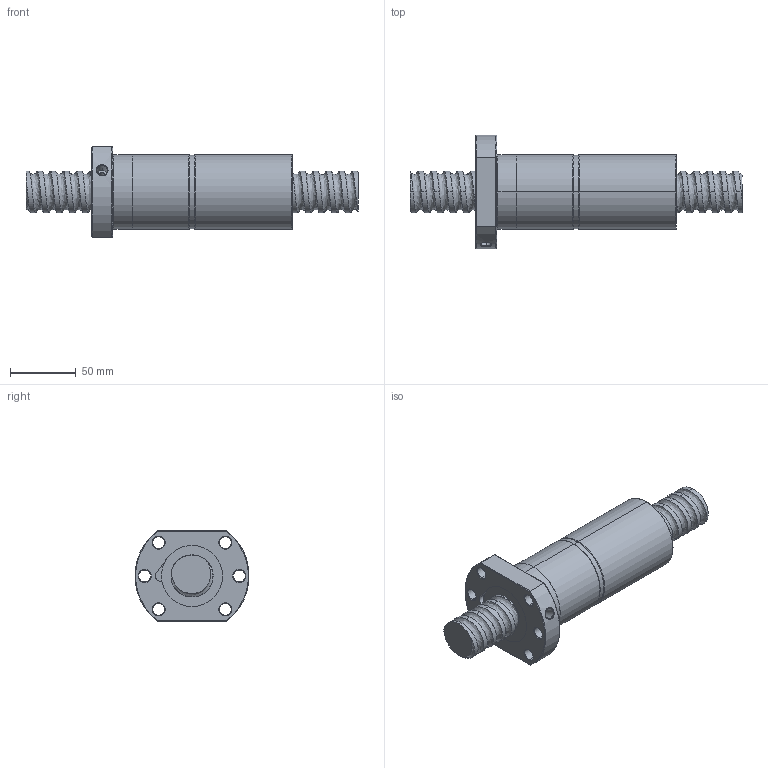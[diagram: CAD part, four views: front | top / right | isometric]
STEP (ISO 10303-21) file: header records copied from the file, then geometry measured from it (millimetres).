
FILE_DESCRIPTION (( 'STEP AP214' ), '1' );
FILE_NAME ('FDDC03210T5-F-C.STEP', '2010-07-06T05:20:38', ( 'XPAUTO' ), ( 'XPAUTO' ), 'SwSTEP 2.0', 'SolidWorks 2007', '' );
FILE_SCHEMA (( 'AUTOMOTIVE_DESIGN' ));
Length unit declared in the file: millimetre
Products named in the file (3): FDDC03210T5-F-C.sldasm-Part-1_預設; FDDC03210T5-F-C.sldasm-Part-2_預設; FDDC03210T5-F-C
Assembly tree (2 placements, depth 2):
  FDDC03210T5-F-C
    FDDC03210T5-F-C.sldasm-Part-2_預設
    FDDC03210T5-F-C.sldasm-Part-1_預設
Bounding box: 253 x 86.7 x 69 mm (x, y, z)
Volume: 476311.2 mm3; surface area: 87062.8 mm2
Topology: 2 solids, 2 shells, 154 faces, 388 edges, 243 vertices
Faces by surface type: cylinder 93, cone 24, plane 22, torus 10, bspline 5
Entity records: 46158 total; most frequent: CARTESIAN_POINT 42535, ORIENTED_EDGE 776, DIRECTION 684, EDGE_CURVE 388, AXIS2_PLACEMENT_3D 275, VERTEX_POINT 243, EDGE_LOOP 175, FACE_OUTER_BOUND 154
